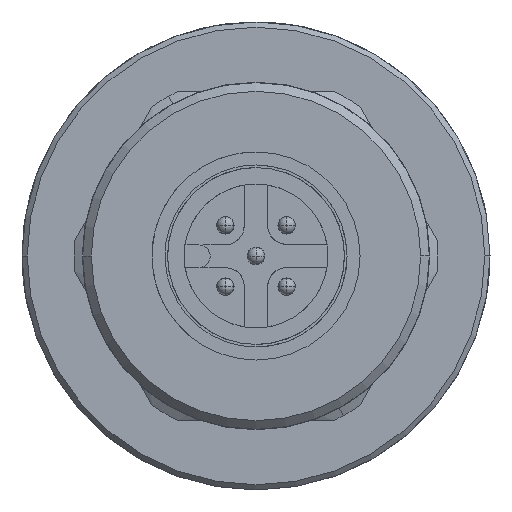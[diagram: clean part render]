
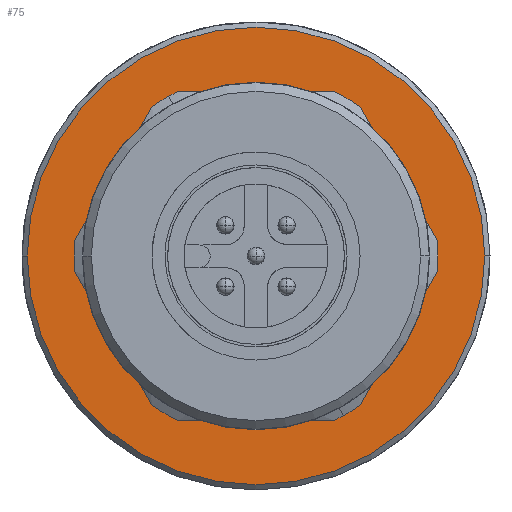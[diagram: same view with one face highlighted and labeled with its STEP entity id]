
A CAD part, left-side view. The second image highlights one B-rep face of the part: STEP entity #75.
In plain terms, the highlighted planar face has unit normal (-1, 0, 0).
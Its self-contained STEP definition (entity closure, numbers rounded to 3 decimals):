
#52=CARTESIAN_POINT('Axis2P3D Location',(-147.,0.,0.)) ;
#57=CARTESIAN_POINT('Axis2P3D Location',(-147.,0.,0.)) ;
#61=CARTESIAN_POINT('Vertex',(-147.,-13.2,0.)) ;
#63=CARTESIAN_POINT('Vertex',(-147.,13.2,0.)) ;
#66=CARTESIAN_POINT('Axis2P3D Location',(-147.,0.,0.)) ;
#53=DIRECTION('Axis2P3D Direction',(1.,0.,0.)) ;
#54=DIRECTION('Axis2P3D XDirection',(0.,1.,0.)) ;
#58=DIRECTION('Axis2P3D Direction',(1.,0.,0.)) ;
#67=DIRECTION('Axis2P3D Direction',(1.,0.,0.)) ;
#55=AXIS2_PLACEMENT_3D('Plane Axis2P3D',#52,#53,#54) ;
#59=AXIS2_PLACEMENT_3D('Circle Axis2P3D',#57,#58,$) ;
#68=AXIS2_PLACEMENT_3D('Circle Axis2P3D',#66,#67,$) ;
#72=ORIENTED_EDGE('',*,*,#65,.F.) ;
#73=ORIENTED_EDGE('',*,*,#70,.F.) ;
#75=ADVANCED_FACE('2',(#74),#56,.F.) ;
#60=CIRCLE('generated circle',#59,13.2) ;
#69=CIRCLE('generated circle',#68,13.2) ;
#65=EDGE_CURVE('',#62,#64,#60,.T.) ;
#70=EDGE_CURVE('',#64,#62,#69,.T.) ;
#71=EDGE_LOOP('',(#72,#73)) ;
#74=FACE_OUTER_BOUND('',#71,.T.) ;
#56=PLANE('',#55) ;
#62=VERTEX_POINT('',#61) ;
#64=VERTEX_POINT('',#63) ;
